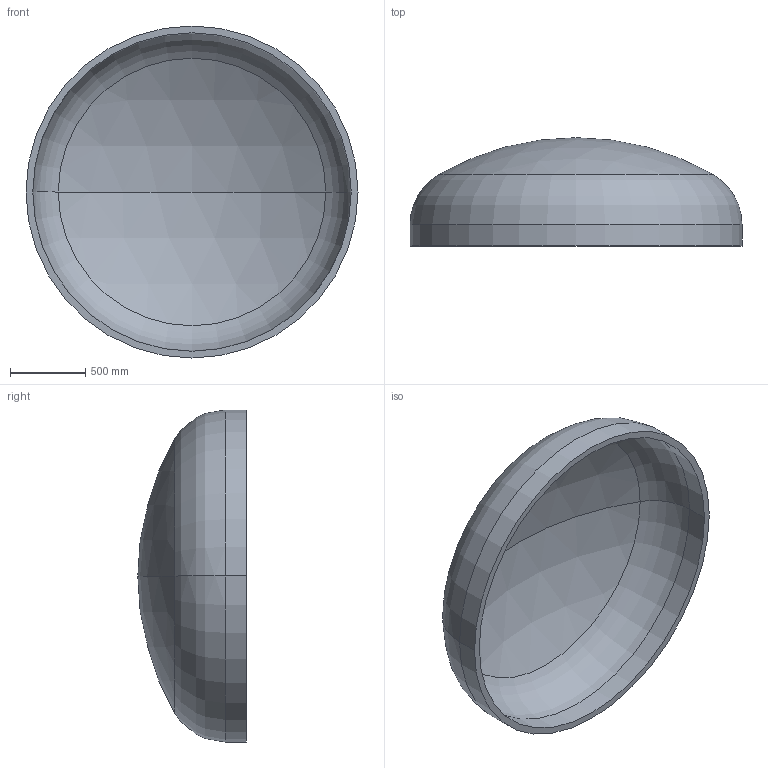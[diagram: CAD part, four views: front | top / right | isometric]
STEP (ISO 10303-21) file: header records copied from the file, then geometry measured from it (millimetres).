
FILE_DESCRIPTION (( 'STEP AP203' ), '1' );
FILE_NAME ('DIN 28013 Korbbogenform_-_Boden DIN 28013 - 2200 x 140 - I - s=45.step', '2016-07-01T14:37:55', ( '' ), ( '' ), 'SwSTEP 2.0', 'SolidWorks 2013', '' );
FILE_SCHEMA (( 'CONFIG_CONTROL_DESIGN' ));
Length unit declared in the file: millimetre
Products named in the file (1): DIN 28013 Korbbogenform_-_Boden DIN 28013 - 2200 x 140 - I - s=45
Bounding box: 2200 x 718.14 x 2200 mm (x, y, z)
Volume: 273436701.8 mm3; surface area: 12461635.6 mm2
Topology: 1 solids, 1 shells, 13 faces, 24 edges, 14 vertices
Faces by surface type: torus 4, cylinder 4, sphere 4, plane 1
Entity records: 407 total; most frequent: DIRECTION 72, CARTESIAN_POINT 52, ORIENTED_EDGE 48, AXIS2_PLACEMENT_3D 34, EDGE_CURVE 24, CIRCLE 20, EDGE_LOOP 14, VERTEX_POINT 14
